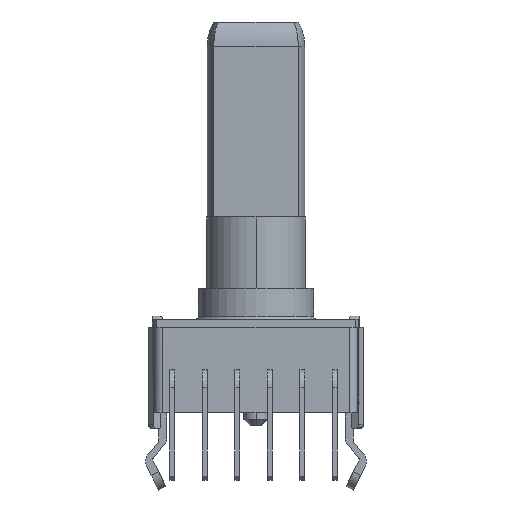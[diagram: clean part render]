
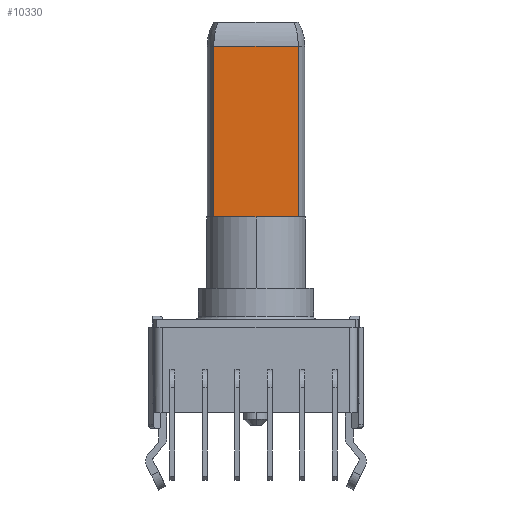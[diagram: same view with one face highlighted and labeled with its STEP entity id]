
A CAD part, front view. The second image highlights one B-rep face of the part: STEP entity #10330.
In plain terms, the highlighted planar face has unit normal (0, -1, 0).
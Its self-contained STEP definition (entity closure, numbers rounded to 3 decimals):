
#115 = FACE_OUTER_BOUND ( 'NONE', #3168, .T. ) ;
#631 = LINE ( 'NONE', #16850, #646 ) ;
#635 = LINE ( 'NONE', #17052, #660 ) ;
#646 = VECTOR ( 'NONE', #17053, 1000. ) ;
#660 = VECTOR ( 'NONE', #17055, 1000. ) ;
#1354 = EDGE_CURVE ( 'NONE', #16694, #16695, #12147, .T. ) ;
#1355 = EDGE_CURVE ( 'NONE', #16695, #16745, #12163, .T. ) ;
#1368 = EDGE_CURVE ( 'NONE', #16694, #14276, #631, .T. ) ;
#1369 = EDGE_CURVE ( 'NONE', #14276, #16745, #635, .T. ) ;
#3168 = EDGE_LOOP ( 'NONE', ( #14816, #14802, #14303, #14281 ) ) ;
#10330 = ADVANCED_FACE ( 'NONE', ( #115 ), #13052, .F. ) ;
#12147 = LINE ( 'NONE', #16709, #12203 ) ;
#12161 = VECTOR ( 'NONE', #16784, 1000. ) ;
#12163 = LINE ( 'NONE', #16715, #12161 ) ;
#12203 = VECTOR ( 'NONE', #16716, 1000. ) ;
#13052 = PLANE ( 'NONE',  #13899 ) ;
#13138 = CARTESIAN_POINT ( 'NONE',  ( 2.598, -1.5, -17.3 ) ) ;
#13143 = DIRECTION ( 'NONE',  ( 0., 1., 0. ) ) ;
#13420 = CARTESIAN_POINT ( 'NONE',  ( -2.598, -1.5, -6.8 ) ) ;
#13517 = DIRECTION ( 'NONE',  ( 1., 0., 0. ) ) ;
#13644 = CARTESIAN_POINT ( 'NONE',  ( -2.598, -1.5, -17.3 ) ) ;
#13668 = CARTESIAN_POINT ( 'NONE',  ( 2.598, -1.5, -6.8 ) ) ;
#13677 = CARTESIAN_POINT ( 'NONE',  ( -2.598, -1.5, -6.8 ) ) ;
#13899 = AXIS2_PLACEMENT_3D ( 'NONE', #13420, #13143, #13517 ) ;
#14276 = VERTEX_POINT ( 'NONE', #13644 ) ;
#14281 = ORIENTED_EDGE ( 'NONE', *, *, #1368, .T. ) ;
#14303 = ORIENTED_EDGE ( 'NONE', *, *, #1354, .F. ) ;
#14802 = ORIENTED_EDGE ( 'NONE', *, *, #1355, .F. ) ;
#14816 = ORIENTED_EDGE ( 'NONE', *, *, #1369, .T. ) ;
#16694 = VERTEX_POINT ( 'NONE', #13677 ) ;
#16695 = VERTEX_POINT ( 'NONE', #13668 ) ;
#16709 = CARTESIAN_POINT ( 'NONE',  ( -2.598, -1.5, -6.8 ) ) ;
#16715 = CARTESIAN_POINT ( 'NONE',  ( 2.598, -1.5, -6.8 ) ) ;
#16716 = DIRECTION ( 'NONE',  ( 1., 0., 0. ) ) ;
#16745 = VERTEX_POINT ( 'NONE', #13138 ) ;
#16784 = DIRECTION ( 'NONE',  ( 0., 0., -1. ) ) ;
#16850 = CARTESIAN_POINT ( 'NONE',  ( -2.598, -1.5, -6.8 ) ) ;
#17052 = CARTESIAN_POINT ( 'NONE',  ( -5.2, -1.5, -17.3 ) ) ;
#17053 = DIRECTION ( 'NONE',  ( 0., 0., -1. ) ) ;
#17055 = DIRECTION ( 'NONE',  ( 1., 0., 0. ) ) ;
